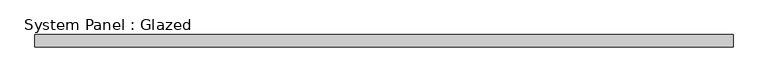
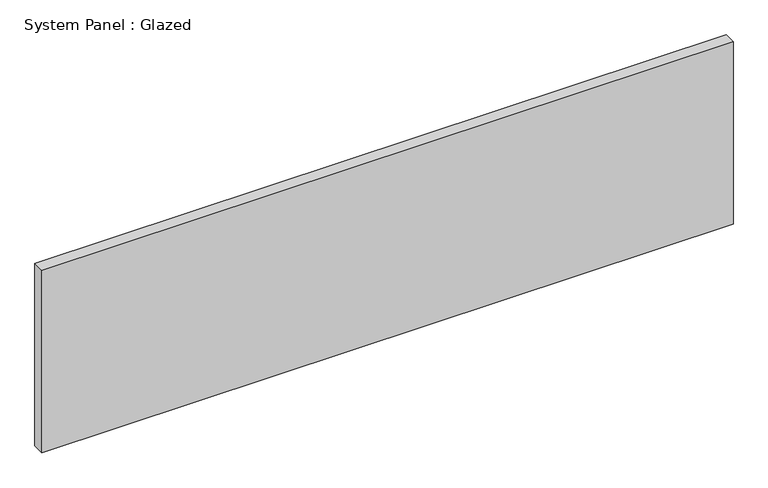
"""IFC4 building model written with IfcOpenShell, lengths in millimetres: plate geometry, System Panel : Glazed."""

from ifc_helpers import new_model, si_unit, origin, origin_with_axes, place, context, project, spatial, polyline, outline, extrude, source, transform, mapped, element, save


def system_panel_glazed_378ae4e2(model_context):
    return source(origin(), model_context, "Body", "SweptSolid", [
        extrude(outline(polyline([(712.5, 24.5), (-712.5, 24.5), (-712.5, 49.5), (712.5, 49.5), (712.5, 24.5)])), origin_with_axes(), (0.0, 0.0, 1.0), 397.846895),
    ])


if __name__ == "__main__":
    model = new_model("IFC4")
    model_context = context("Model", 3, world=origin())
    ifc_project = project(units=[si_unit("LENGTHUNIT", "METRE", prefix="MILLI")], contexts=[model_context])
    site = spatial("IfcSite", under=ifc_project)
    building = spatial("IfcBuilding", under=site)
    placement = place(None, origin())
    system_panel_glazed_shape = system_panel_glazed_378ae4e2(model_context)
    element("IfcPlate", 1, ObjectType="System Panel : Glazed", at=placement, inside=building, context=model_context, shape_type="MappedRepresentation", body=[
        mapped(system_panel_glazed_shape, transform((0.0, 0.0, 0.0), x_axis=(1.0, 0.0, 0.0), y_axis=(0.0, 1.0, 0.0), z_axis=(0.0, 0.0, 1.0))),
    ])
    save(model, "model.ifc")
